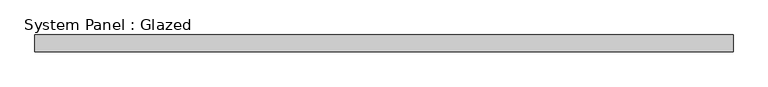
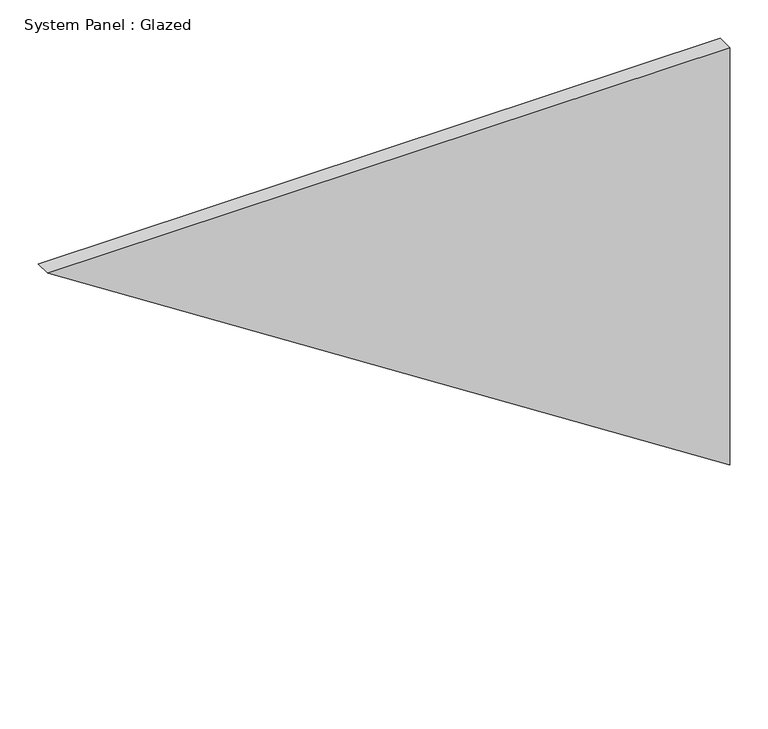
"""IFC4 building model written with IfcOpenShell, lengths in millimetres: plate geometry, System Panel : Glazed."""

import ifcopenshell
import ifcopenshell.guid

model = None  # the IFC model being written
_history = None  # IfcOwnerHistory: only IFC2X3 demands one
_inside = {}  # id of a spatial element -> (the spatial element, [elements in it])
_under = {}  # id of a project, library or spatial element -> (it, [spatial elements below it])
_declared = {}  # id of a project -> (the project, [libraries it declares])
_typed = {}  # id of a type object -> (the type object, [elements of that type])
_made_of = {}  # id of a material, layer set ... -> (it, [elements and type objects made of it])


def new_model(schema):
    """Start an empty IFC model of exactly this schema.

    Asked for "IFC4X3", IfcOpenShell would pick the latest addendum, in which some entities
    have other attributes; the version numbers below select the first issue.
    IFC2X3 requires an IfcOwnerHistory on every rooted entity: one is made here for all.
    """
    global model, _history
    if schema == "IFC4X3":
        model = ifcopenshell.file(schema_version=(4, 3, 0, 0))
    else:
        model = ifcopenshell.file(schema=schema)
    _inside.clear()
    _under.clear()
    _declared.clear()
    _typed.clear()
    _made_of.clear()
    _history = None
    if model.schema == "IFC2X3":
        org = make("IfcOrganization", Name="unknown")
        user = make(
            "IfcPersonAndOrganization",
            ThePerson=make("IfcPerson", FamilyName="unknown"),
            TheOrganization=org,
        )
        app = make(
            "IfcApplication",
            ApplicationDeveloper=org,
            Version="unknown",
            ApplicationFullName="unknown",
            ApplicationIdentifier="unknown",
        )
        _history = make(
            "IfcOwnerHistory",
            OwningUser=user,
            OwningApplication=app,
            ChangeAction="ADDED",
            CreationDate=0,
        )
    return model


def make(cls, **values):
    """One entity of the class cls with the attributes given. An attribute that is None is left unset."""
    return model.create_entity(
        cls, **{name: value for name, value in values.items() if value is not None}
    )


def rooted(cls, **values):
    """An entity with a GlobalId (a new one), such as an element, a storey or a relation."""
    return make(cls, GlobalId=ifcopenshell.guid.new(), OwnerHistory=_history, **values)


def si_unit(unit_type, name, prefix=None):
    """IfcSIUnit, for example si_unit("LENGTHUNIT", "METRE", prefix="MILLI")."""
    return make("IfcSIUnit", UnitType=unit_type, Prefix=prefix, Name=name)


def assignment(units):
    """IfcUnitAssignment: the units of a project."""
    return None if units is None else make("IfcUnitAssignment", Units=units)


def point(xyz):
    """IfcCartesianPoint."""
    return None if xyz is None else make("IfcCartesianPoint", Coordinates=xyz)


def direction(xyz):
    """IfcDirection."""
    return None if xyz is None else make("IfcDirection", DirectionRatios=xyz)


def frame(location, z_axis=None, x_axis=None):
    """IfcAxis2Placement3D, a coordinate frame: its origin and axes. An axis left out is left unset."""
    return make(
        "IfcAxis2Placement3D",
        Location=point(location),
        Axis=direction(z_axis),
        RefDirection=direction(x_axis),
    )


def origin():
    """The frame at (0, 0, 0) with its axes left unset."""
    return frame((0.0, 0.0, 0.0))


def place(relative_to, where):
    """IfcLocalPlacement: puts the frame where relative to a parent placement (None: the world)."""
    return make(
        "IfcLocalPlacement", PlacementRelTo=relative_to, RelativePlacement=where
    )


def context(
    kind, dimensions, precision=None, world=None, true_north=None, identifier=None
):
    """IfcGeometricRepresentationContext, for example the 3D "Model" context."""
    return make(
        "IfcGeometricRepresentationContext",
        ContextIdentifier=identifier,
        ContextType=kind,
        CoordinateSpaceDimension=dimensions,
        Precision=precision,
        WorldCoordinateSystem=world,
        TrueNorth=true_north,
    )


def project(units=None, contexts=None):
    """IfcProject with its units and contexts."""
    return rooted(
        "IfcProject",
        Name="project",
        RepresentationContexts=contexts,
        UnitsInContext=assignment(units),
    )


def spatial(cls, under=None, at=None, **own):
    """A site, building, storey or space (cls), placed at a placement, below another one or the project."""
    s = rooted(cls, ObjectPlacement=at, **own)
    if under is not None:
        _under.setdefault(under.id(), (under, []))[1].append(s)
    return s


def polyline(points):
    """IfcPolyline through the points."""
    return make("IfcPolyline", Points=[point(p) for p in points])


def outline(outer, holes=None, kind="AREA"):
    """IfcArbitraryClosedProfileDef: a profile drawn as a closed curve; with holes, ...WithVoids."""
    if holes is None:
        return make("IfcArbitraryClosedProfileDef", ProfileType=kind, OuterCurve=outer)
    return make(
        "IfcArbitraryProfileDefWithVoids",
        ProfileType=kind,
        OuterCurve=outer,
        InnerCurves=holes,
    )


def extrude(swept, where, along, depth):
    """IfcExtrudedAreaSolid: the profile swept, set in the frame where, extruded along a direction by depth."""
    return make(
        "IfcExtrudedAreaSolid",
        SweptArea=swept,
        Position=where,
        ExtrudedDirection=direction(along),
        Depth=depth,
    )


def shape(context_of_items, identifier, shape_type, items):
    """IfcShapeRepresentation: the items that make up one representation, for example the "Body"."""
    return make(
        "IfcShapeRepresentation",
        ContextOfItems=context_of_items,
        RepresentationIdentifier=identifier,
        RepresentationType=shape_type,
        Items=items,
    )


def source(mapping_origin, context_of_items, identifier, shape_type, items):
    """IfcRepresentationMap: a shape defined once, which mapped items show again and again."""
    return make(
        "IfcRepresentationMap",
        MappingOrigin=mapping_origin,
        MappedRepresentation=shape(context_of_items, identifier, shape_type, items),
    )


def transform(
    local_origin,
    x_axis=None,
    y_axis=None,
    z_axis=None,
    scale=None,
    scale2=None,
    scale3=None,
    uniform=True,
):
    """IfcCartesianTransformationOperator3D, or its non-uniform kind. x_axis, y_axis, z_axis: its Axis1, 2, 3."""
    if uniform:
        return make(
            "IfcCartesianTransformationOperator3D",
            Axis1=direction(x_axis),
            Axis2=direction(y_axis),
            LocalOrigin=point(local_origin),
            Scale=scale,
            Axis3=direction(z_axis),
        )
    return make(
        "IfcCartesianTransformationOperator3DnonUniform",
        Axis1=direction(x_axis),
        Axis2=direction(y_axis),
        LocalOrigin=point(local_origin),
        Scale=scale,
        Axis3=direction(z_axis),
        Scale2=scale2,
        Scale3=scale3,
    )


def mapped(mapping_source, mapping_target):
    """IfcMappedItem: shows the shape of a source again, moved by a transform."""
    return make(
        "IfcMappedItem", MappingSource=mapping_source, MappingTarget=mapping_target
    )


def made_of(thing, what):
    """Note that an element or type object is made of a material, layer set ...; save() writes the relation."""
    if what is not None:
        _made_of.setdefault(what.id(), (what, []))[1].append(thing)
    return thing


def element(
    cls,
    number,
    at=None,
    inside=None,
    cuts=None,
    type_object=None,
    material=None,
    context=None,
    identifier="Body",
    shape_type=None,
    held_by="IfcProductDefinitionShape",
    body=None,
    shapes=None,
    **own,
):
    """One element of the class cls, such as IfcWall. Its Tag is "e" and its number.

    at: its placement. inside: the storey or other place that contains it. cuts: it is an
    opening in that element (IfcRelVoidsElement). A single representation is given by context,
    identifier, shape_type and body (its items); several are given by shapes. held_by: the class
    of the entity that holds the representations. save() writes the other relations.
    """
    e = rooted(cls, Tag="e%d" % number, ObjectPlacement=at, **own)
    if body is not None:
        shapes = [shape(context, identifier, shape_type, body)]
    if shapes is not None:
        e.Representation = make(held_by, Representations=shapes)
    if inside is not None:
        _inside.setdefault(inside.id(), (inside, []))[1].append(e)
    if cuts is not None:
        rooted(
            "IfcRelVoidsElement", RelatingBuildingElement=cuts, RelatedOpeningElement=e
        )
    if type_object is not None:
        _typed.setdefault(type_object.id(), (type_object, []))[1].append(e)
    return made_of(e, material)


def aggregate(whole, parts):
    """IfcRelAggregates: a whole, such as a stair, and the parts it consists of."""
    return rooted("IfcRelAggregates", RelatingObject=whole, RelatedObjects=parts)


def save(model, path):
    """Write the relations noted so far, then the file.

    IfcRelAggregates (storeys below a building ...), IfcRelContainedInSpatialStructure (elements
    in a storey), IfcRelDefinesByType, IfcRelAssociatesMaterial and IfcRelDeclares: one each for
    every whole, place, type object, material and project.
    """
    for whole, parts in _under.values():
        aggregate(whole, parts)
    for where, things in _inside.values():
        rooted(
            "IfcRelContainedInSpatialStructure",
            RelatedElements=things,
            RelatingStructure=where,
        )
    for kind, things in _typed.values():
        rooted("IfcRelDefinesByType", RelatedObjects=things, RelatingType=kind)
    for what, things in _made_of.values():
        rooted("IfcRelAssociatesMaterial", RelatedObjects=things, RelatingMaterial=what)
    for by, libraries in _declared.values():
        rooted("IfcRelDeclares", RelatingContext=by, RelatedDefinitions=libraries)
    model.write(path)


def system_panel_glazed_d0c60d7b(model_context):
    return source(origin(), model_context, "Body", "SweptSolid", [
        extrude(outline(polyline([(670.0677086, -517.7017155), (0.0, 517.7017155), (670.0677086, 517.7017155), (670.0677086, -517.7017155)])), frame((0.0, 24.5, 0.0), z_axis=(0.0, 1.0, 0.0), x_axis=(0.0, 0.0, 1.0)), (0.0, 0.0, 1.0), 25.0),
    ])


if __name__ == "__main__":
    model = new_model("IFC4")
    model_context = context("Model", 3, world=origin())
    ifc_project = project(units=[si_unit("LENGTHUNIT", "METRE", prefix="MILLI")], contexts=[model_context])
    site = spatial("IfcSite", under=ifc_project)
    building = spatial("IfcBuilding", under=site)
    placement = place(None, origin())
    system_panel_glazed_shape = system_panel_glazed_d0c60d7b(model_context)
    element("IfcPlate", 1, ObjectType="System Panel : Glazed", at=placement, inside=building, context=model_context, shape_type="MappedRepresentation", body=[
        mapped(system_panel_glazed_shape, transform((0.0, 0.0, 0.0), x_axis=(1.0, 0.0, 0.0), y_axis=(0.0, 1.0, 0.0), z_axis=(0.0, 0.0, 1.0))),
    ])
    save(model, "model.ifc")
